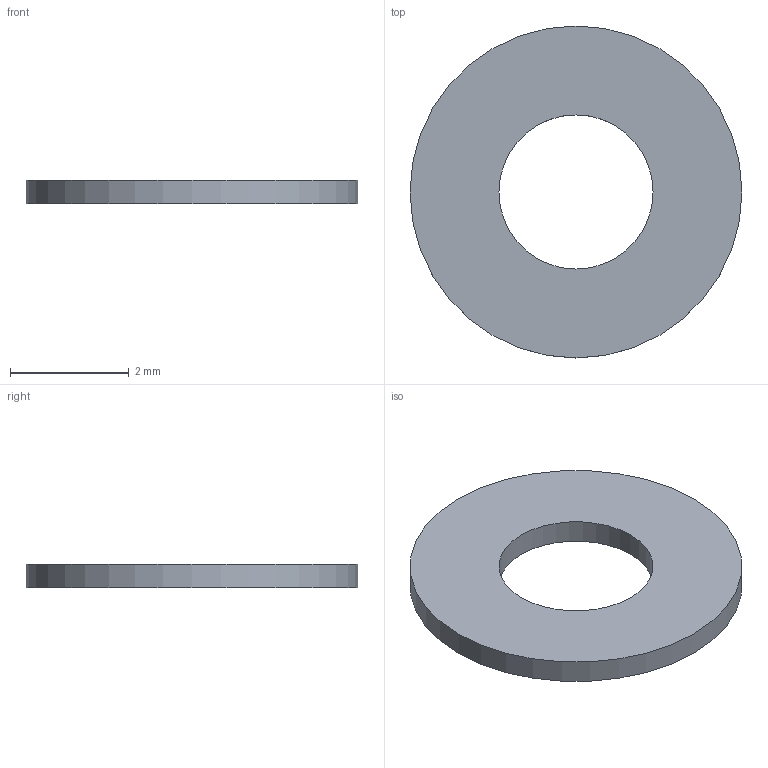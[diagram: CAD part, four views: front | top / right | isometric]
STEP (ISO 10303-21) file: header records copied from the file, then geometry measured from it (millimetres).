
FILE_DESCRIPTION(('Open CASCADE Model'),'2;1');
FILE_NAME('Microphone_gasket_reference','2026-09-21T22:33:40',('Author') ,('Open CASCADE'),'Open CASCADE STEP processor 7.9','build123d', 'Unknown');
FILE_SCHEMA(('AUTOMOTIVE_DESIGN { 1 0 10303 214 1 1 1 1 }'));
Length unit declared in the file: millimetre
Products named in the file (2): Microphone_gasket_reference
Assembly tree (1 placements, depth 2):
  Microphone_gasket_reference
    Microphone_gasket_reference
Bounding box: 5.6 x 5.6 x 0.4 mm (x, y, z)
Volume: 7.7 mm3; surface area: 48.9 mm2
Topology: 1 solids, 1 shells, 4 faces, 6 edges, 4 vertices
Faces by surface type: cylinder 2, plane 2
Full cylindrical faces by diameter (mm): 2.6 x1, 5.6 x1
Entity records: 150 total; most frequent: DIRECTION 22, CARTESIAN_POINT 16, ORIENTED_EDGE 12, AXIS2_PLACEMENT_3D 10, FACE_BOUND 6, EDGE_LOOP 6, EDGE_CURVE 6, SHAPE_DEFINITION_REPRESENTATION 4
